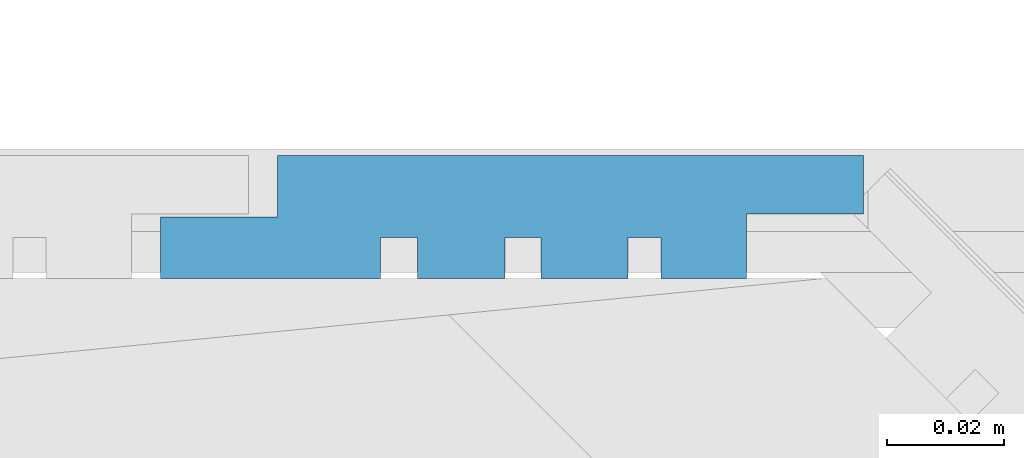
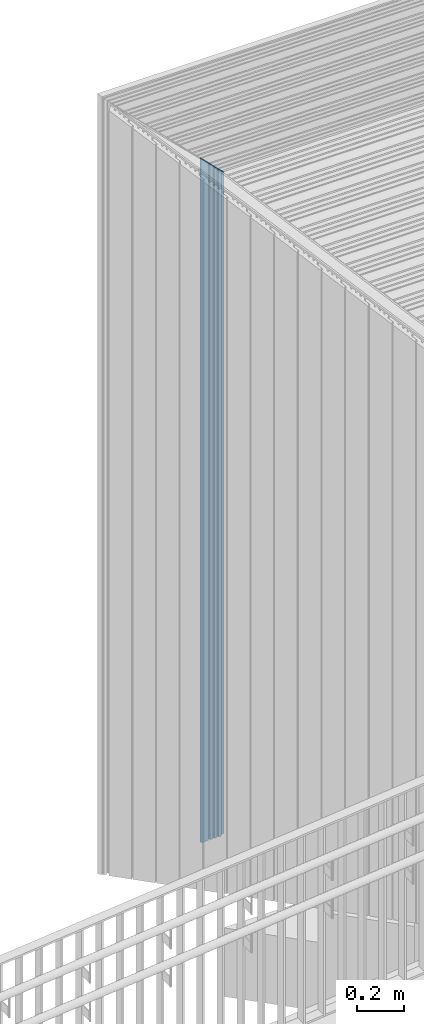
# One storey, part 136 of 418: 1 building element part, 1 element without a shape of its own.
"""IFC2X3 building model written with IfcOpenShell, lengths in millimetres."""

import ifcopenshell
import ifcopenshell.guid

model = None  # the IFC model being written
_history = None  # IfcOwnerHistory: only IFC2X3 demands one
_inside = {}  # id of a spatial element -> (the spatial element, [elements in it])
_under = {}  # id of a project, library or spatial element -> (it, [spatial elements below it])
_declared = {}  # id of a project -> (the project, [libraries it declares])
_typed = {}  # id of a type object -> (the type object, [elements of that type])
_made_of = {}  # id of a material, layer set ... -> (it, [elements and type objects made of it])


def new_model(schema):
    """Start an empty IFC model of exactly this schema.

    Asked for "IFC4X3", IfcOpenShell would pick the latest addendum, in which some entities
    have other attributes; the version numbers below select the first issue.
    IFC2X3 requires an IfcOwnerHistory on every rooted entity: one is made here for all.
    """
    global model, _history
    if schema == "IFC4X3":
        model = ifcopenshell.file(schema_version=(4, 3, 0, 0))
    else:
        model = ifcopenshell.file(schema=schema)
    _inside.clear()
    _under.clear()
    _declared.clear()
    _typed.clear()
    _made_of.clear()
    _history = None
    if model.schema == "IFC2X3":
        org = make("IfcOrganization", Name="unknown")
        user = make(
            "IfcPersonAndOrganization",
            ThePerson=make("IfcPerson", FamilyName="unknown"),
            TheOrganization=org,
        )
        app = make(
            "IfcApplication",
            ApplicationDeveloper=org,
            Version="unknown",
            ApplicationFullName="unknown",
            ApplicationIdentifier="unknown",
        )
        _history = make(
            "IfcOwnerHistory",
            OwningUser=user,
            OwningApplication=app,
            ChangeAction="ADDED",
            CreationDate=0,
        )
    return model


def make(cls, **values):
    """One entity of the class cls with the attributes given. An attribute that is None is left unset."""
    return model.create_entity(
        cls, **{name: value for name, value in values.items() if value is not None}
    )


def entity(cls, *values):
    """Any entity or typed value of the class cls, its attributes in the order of the schema. None: left unset."""
    e = model.create_entity(cls)
    for i, value in enumerate(values):
        if value is not None:
            e[i] = value
    return e


def rooted(cls, **values):
    """An entity with a GlobalId (a new one), such as an element, a storey or a relation."""
    return make(cls, GlobalId=ifcopenshell.guid.new(), OwnerHistory=_history, **values)


def si_unit(unit_type, name, prefix=None):
    """IfcSIUnit, for example si_unit("LENGTHUNIT", "METRE", prefix="MILLI")."""
    return make("IfcSIUnit", UnitType=unit_type, Prefix=prefix, Name=name)


def converted_unit(unit_type, name, factor, base, dimensions=None, offset=None):
    """IfcConversionBasedUnit, such as the inch: factor (a typed value) times the base unit."""
    return make(
        "IfcConversionBasedUnit"
        if offset is None
        else "IfcConversionBasedUnitWithOffset",
        ConversionOffset=offset,
        Dimensions=None
        if dimensions is None
        else entity("IfcDimensionalExponents", *dimensions),
        UnitType=unit_type,
        Name=name,
        ConversionFactor=make(
            "IfcMeasureWithUnit", ValueComponent=factor, UnitComponent=base
        ),
    )


def derived_unit(unit_type, elements):
    """IfcDerivedUnit: a product of units, each with its exponent."""
    return make(
        "IfcDerivedUnit",
        Elements=[
            make("IfcDerivedUnitElement", Unit=unit, Exponent=power)
            for unit, power in elements
        ],
        UnitType=unit_type,
    )


def money_unit(currency):
    """IfcMonetaryUnit."""
    return make("IfcMonetaryUnit", Currency=currency)


def assignment(units):
    """IfcUnitAssignment: the units of a project."""
    return None if units is None else make("IfcUnitAssignment", Units=units)


def point(xyz):
    """IfcCartesianPoint."""
    return None if xyz is None else make("IfcCartesianPoint", Coordinates=xyz)


def direction(xyz):
    """IfcDirection."""
    return None if xyz is None else make("IfcDirection", DirectionRatios=xyz)


def frame(location, z_axis=None, x_axis=None):
    """IfcAxis2Placement3D, a coordinate frame: its origin and axes. An axis left out is left unset."""
    return make(
        "IfcAxis2Placement3D",
        Location=point(location),
        Axis=direction(z_axis),
        RefDirection=direction(x_axis),
    )


def origin_with_axes():
    """The frame at (0, 0, 0) with the z axis (0, 0, 1) and the x axis (1, 0, 0) written out."""
    return frame((0.0, 0.0, 0.0), z_axis=(0.0, 0.0, 1.0), x_axis=(1.0, 0.0, 0.0))


def place(relative_to, where):
    """IfcLocalPlacement: puts the frame where relative to a parent placement (None: the world)."""
    return make(
        "IfcLocalPlacement", PlacementRelTo=relative_to, RelativePlacement=where
    )


def context(
    kind, dimensions, precision=None, world=None, true_north=None, identifier=None
):
    """IfcGeometricRepresentationContext, for example the 3D "Model" context."""
    return make(
        "IfcGeometricRepresentationContext",
        ContextIdentifier=identifier,
        ContextType=kind,
        CoordinateSpaceDimension=dimensions,
        Precision=precision,
        WorldCoordinateSystem=world,
        TrueNorth=true_north,
    )


def subcontext(parent, identifier, kind, view, scale=None):
    """IfcGeometricRepresentationSubContext, for example "Body" below "Model"."""
    return make(
        "IfcGeometricRepresentationSubContext",
        ContextIdentifier=identifier,
        ContextType=kind,
        ParentContext=parent,
        TargetScale=scale,
        TargetView=view,
    )


def project(units=None, contexts=None):
    """IfcProject with its units and contexts."""
    return rooted(
        "IfcProject",
        Name="project",
        RepresentationContexts=contexts,
        UnitsInContext=assignment(units),
    )


def spatial(cls, under=None, at=None, **own):
    """A site, building, storey or space (cls), placed at a placement, below another one or the project."""
    s = rooted(cls, ObjectPlacement=at, **own)
    if under is not None:
        _under.setdefault(under.id(), (under, []))[1].append(s)
    return s


def polyline(points):
    """IfcPolyline through the points."""
    return make("IfcPolyline", Points=[point(p) for p in points])


def outline(outer, holes=None, kind="AREA"):
    """IfcArbitraryClosedProfileDef: a profile drawn as a closed curve; with holes, ...WithVoids."""
    if holes is None:
        return make("IfcArbitraryClosedProfileDef", ProfileType=kind, OuterCurve=outer)
    return make(
        "IfcArbitraryProfileDefWithVoids",
        ProfileType=kind,
        OuterCurve=outer,
        InnerCurves=holes,
    )


def extrude(swept, where, along, depth):
    """IfcExtrudedAreaSolid: the profile swept, set in the frame where, extruded along a direction by depth."""
    return make(
        "IfcExtrudedAreaSolid",
        SweptArea=swept,
        Position=where,
        ExtrudedDirection=direction(along),
        Depth=depth,
    )


def boolean(op, a, b):
    """IfcBooleanResult of two solids."""
    return make("IfcBooleanResult", Operator=op, FirstOperand=a, SecondOperand=b)


def faces_of(points, faces, orient=None, outer=None):
    """IfcFace entities. A face is a list of loops; a loop is a list of indices into points, from 0.

    orient and outer hold one flag for each loop. By default every Orientation is true, the
    first loop of a face is its IfcFaceOuterBound and the others are IfcFaceBound.
    """
    made = []
    for i, loops in enumerate(faces):
        bounds = []
        for j, loop in enumerate(loops):
            is_outer = j == 0 if outer is None else outer[i][j]
            bounds.append(
                make(
                    "IfcFaceOuterBound" if is_outer else "IfcFaceBound",
                    Bound=make("IfcPolyLoop", Polygon=[points[k] for k in loop]),
                    Orientation=True if orient is None else orient[i][j],
                )
            )
        made.append(make("IfcFace", Bounds=bounds))
    return made


def faceted_brep(points, faces, orient=None, outer=None, voids=None):
    """IfcFacetedBrep: a solid bounded by flat faces; with voids (closed shells), ...WithVoids."""
    shared = [point(p) for p in points]
    hull = make("IfcClosedShell", CfsFaces=faces_of(shared, faces, orient, outer))
    if voids is None:
        return make("IfcFacetedBrep", Outer=hull)
    return make(
        "IfcFacetedBrepWithVoids",
        Outer=hull,
        Voids=[
            make(cls, CfsFaces=faces_of(shared, fs, o, b)) for cls, fs, o, b in voids
        ],
    )


def shape(context_of_items, identifier, shape_type, items):
    """IfcShapeRepresentation: the items that make up one representation, for example the "Body"."""
    return make(
        "IfcShapeRepresentation",
        ContextOfItems=context_of_items,
        RepresentationIdentifier=identifier,
        RepresentationType=shape_type,
        Items=items,
    )


def material(Name=None, Category=None):
    """IfcMaterial."""
    return make("IfcMaterial", Name=Name, Category=Category)


def made_of(thing, what):
    """Note that an element or type object is made of a material, layer set ...; save() writes the relation."""
    if what is not None:
        _made_of.setdefault(what.id(), (what, []))[1].append(thing)
    return thing


def type_object(cls, material=None, **own):
    """A type object (cls), such as IfcWallType, which elements share."""
    return made_of(rooted(cls, **own), material)


def element(
    cls,
    number,
    at=None,
    inside=None,
    cuts=None,
    type_object=None,
    material=None,
    context=None,
    identifier="Body",
    shape_type=None,
    held_by="IfcProductDefinitionShape",
    body=None,
    shapes=None,
    **own,
):
    """One element of the class cls, such as IfcWall. Its Tag is "e" and its number.

    at: its placement. inside: the storey or other place that contains it. cuts: it is an
    opening in that element (IfcRelVoidsElement). A single representation is given by context,
    identifier, shape_type and body (its items); several are given by shapes. held_by: the class
    of the entity that holds the representations. save() writes the other relations.
    """
    e = rooted(cls, Tag="e%d" % number, ObjectPlacement=at, **own)
    if body is not None:
        shapes = [shape(context, identifier, shape_type, body)]
    if shapes is not None:
        e.Representation = make(held_by, Representations=shapes)
    if inside is not None:
        _inside.setdefault(inside.id(), (inside, []))[1].append(e)
    if cuts is not None:
        rooted(
            "IfcRelVoidsElement", RelatingBuildingElement=cuts, RelatedOpeningElement=e
        )
    if type_object is not None:
        _typed.setdefault(type_object.id(), (type_object, []))[1].append(e)
    return made_of(e, material)


def aggregate(whole, parts):
    """IfcRelAggregates: a whole, such as a stair, and the parts it consists of."""
    return rooted("IfcRelAggregates", RelatingObject=whole, RelatedObjects=parts)


def save(model, path):
    """Write the relations noted so far, then the file.

    IfcRelAggregates (storeys below a building ...), IfcRelContainedInSpatialStructure (elements
    in a storey), IfcRelDefinesByType, IfcRelAssociatesMaterial and IfcRelDeclares: one each for
    every whole, place, type object, material and project.
    """
    for whole, parts in _under.values():
        aggregate(whole, parts)
    for where, things in _inside.values():
        rooted(
            "IfcRelContainedInSpatialStructure",
            RelatedElements=things,
            RelatingStructure=where,
        )
    for kind, things in _typed.values():
        rooted("IfcRelDefinesByType", RelatedObjects=things, RelatingType=kind)
    for what, things in _made_of.values():
        rooted("IfcRelAssociatesMaterial", RelatedObjects=things, RelatingMaterial=what)
    for by, libraries in _declared.values():
        rooted("IfcRelDeclares", RelatingContext=by, RelatedDefinitions=libraries)
    model.write(path)


model = new_model("IFC2X3")

# Units and contexts
model_context = context("Model", 3, precision=0.01, world=origin_with_axes(), true_north=direction((0.0, 1.0)))
body_context = subcontext(model_context, "Body", "Model", "MODEL_VIEW")
ifc_project = project(units=[si_unit("LENGTHUNIT", "METRE", prefix="MILLI"), si_unit("AREAUNIT", "SQUARE_METRE"), si_unit("VOLUMEUNIT", "CUBIC_METRE"), converted_unit("PLANEANGLEUNIT", "DEGREE", entity("IfcPlaneAngleMeasure", 0.0174532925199), si_unit("PLANEANGLEUNIT", "RADIAN"), dimensions=[0, 0, 0, 0, 0, 0, 0]), si_unit("SOLIDANGLEUNIT", "STERADIAN"), money_unit("EUR"), converted_unit("TIMEUNIT", "Year", entity("IfcTimeMeasure", 31556926.0), si_unit("TIMEUNIT", "SECOND"), dimensions=[0, 0, 1, 0, 0, 0, 0]), si_unit("MASSUNIT", "GRAM", prefix="KILO"), si_unit("THERMODYNAMICTEMPERATUREUNIT", "DEGREE_CELSIUS"), si_unit("LUMINOUSINTENSITYUNIT", "LUMEN"), si_unit("ENERGYUNIT", "JOULE", prefix="MEGA"), derived_unit("THERMALCONDUCTANCEUNIT", [(si_unit("POWERUNIT", "WATT"), 1), (si_unit("LENGTHUNIT", "METRE"), -1), (si_unit("THERMODYNAMICTEMPERATUREUNIT", "KELVIN"), -1)]), derived_unit("SPECIFICHEATCAPACITYUNIT", [(si_unit("ENERGYUNIT", "JOULE"), 1), (si_unit("MASSUNIT", "GRAM", prefix="KILO"), -1), (si_unit("THERMODYNAMICTEMPERATUREUNIT", "KELVIN"), -1)]), derived_unit("MASSDENSITYUNIT", [(si_unit("MASSUNIT", "GRAM", prefix="KILO"), 1), (si_unit("VOLUMEUNIT", "CUBIC_METRE"), -1)])], contexts=[model_context])

# Site, building, storey
site_placement = place(None, origin_with_axes())
site = spatial("IfcSite", under=ifc_project, at=site_placement, Name="Paldiski mnt 245/1, Tallinn, Harjumaa", CompositionType="COMPLEX")
building_placement = place(site_placement, origin_with_axes())
building = spatial("IfcBuilding", under=site, at=building_placement, Name="RKAS Hoone üldnimetus (kasutust iseloomustav) -> IFC Project Manager -> SOLIBRI", CompositionType="ELEMENT")
storey_placement = place(building_placement, origin_with_axes())
storey = spatial("IfcBuildingStorey", under=building, at=storey_placement, Name="Esimene korrus", CompositionType="ELEMENT", Elevation=0.0)

# Proxy, building element part
building_element_proxy_type = type_object("IfcBuildingElementProxyType", Name="Laudis esiprofiil_01 21 x 622", PredefinedType="NOTDEFINED")
proxy_placement = place(storey_placement, frame((-54498.5561962, 39788.252735, 0.0), z_axis=(0.0, 0.0, 1.0), x_axis=(0.0, 1.0, 0.0)))
proxy = element("IfcBuildingElementProxy", 1, at=proxy_placement, inside=storey, type_object=building_element_proxy_type, Name="Varikatus")
ifc_material = material(Name="Laudis 5072 Honka 45 horisontaalne raastas")
building_element_part_placement = place(proxy_placement, origin_with_axes())
building_element_part = element("IfcBuildingElementPart", 2, at=building_element_part_placement, material=ifc_material, Name="Laudis 5072 Honka 45 horisontaalne raastas", context=body_context, shape_type="CSG", body=[
    boolean("DIFFERENCE", boolean("DIFFERENCE", boolean("DIFFERENCE", boolean("DIFFERENCE", boolean("DIFFERENCE", boolean("DIFFERENCE", extrude(outline(polyline([(3.20348192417e-08, -520.971430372), (-10.5000010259, -520.971430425), (-10.5000005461, -500.971429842), (-20.9999998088, -500.971430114), (-21.0000010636, -538.497524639), (-14.0000005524, -538.497525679), (-14.0000003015, -544.860022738), (-20.99999981, -544.860022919), (-20.9999998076, -559.79914009), (-14.0000002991, -559.799139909), (-14.0000007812, -565.926080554), (-21.0000002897, -565.926080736), (-21.0000013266, -580.754573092), (-14.0000008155, -580.754574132), (-14.0000015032, -586.395242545), (-21.0000010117, -586.395242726), (-21.0000007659, -600.971429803), (-10.000001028, -600.971430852), (-10.0000002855, -620.971430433), (-7.63172636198e-07, -620.971430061), (3.20348192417e-08, -520.971430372)])), origin_with_axes(), (0.0, 0.0, 1.0), 4086.15997799), faceted_brep([(-10.0000002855, -515.971430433, 3569.02857075), (-7.63172636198e-07, -515.971430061, 3569.02857112), (-7.63172636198e-07, -515.971430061, 4086.15997799), (-10.0000002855, -515.971430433, 4086.15997799), (3.20312665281e-08, -415.971430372, 3669.02857081), (-10.000001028, -495.971430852, 3589.02857033), (-21.0000007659, -495.971429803, 3589.02857138), (-21.0000010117, -481.395242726, 3603.60475846), (-14.0000015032, -481.395242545, 3603.60475864), (-14.0000008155, -475.754574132, 3609.24542705), (-21.0000013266, -475.754573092, 3609.24542809), (-21.0000002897, -460.926080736, 3624.07392045), (-14.0000007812, -460.926080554, 3624.07392063), (-14.0000002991, -454.799139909, 3630.20086128), (-20.9999998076, -454.79914009, 3630.20086109), (-20.99999981, -439.860022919, 3645.13997827), (-14.0000003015, -439.860022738, 3645.13997845), (-14.0000005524, -433.497525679, 3651.50247551), (-21.0000010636, -433.497524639, 3651.50247655), (-20.9999998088, -395.971430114, 3689.02857107), (-10.5000005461, -395.971429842, 3689.02857134), (-10.5000010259, -415.971430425, 3669.02857076), (3.20312665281e-08, -415.971430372, 4086.15997799), (-10.5000010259, -415.971430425, 4086.15997799), (-10.5000005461, -395.971429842, 4086.15997799), (-20.9999998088, -395.971430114, 4086.15997799), (-21.0000010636, -433.497524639, 4086.15997799), (-14.0000005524, -433.497525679, 4086.15997799), (-14.0000003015, -439.860022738, 4086.15997799), (-20.99999981, -439.860022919, 4086.15997799), (-20.9999998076, -454.79914009, 4086.15997799), (-14.0000002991, -454.799139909, 4086.15997799), (-14.0000007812, -460.926080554, 4086.15997799), (-21.0000002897, -460.926080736, 4086.15997799), (-21.0000013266, -475.754573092, 4086.15997799), (-14.0000008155, -475.754574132, 4086.15997799), (-14.0000015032, -481.395242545, 4086.15997799), (-21.0000010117, -481.395242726, 4086.15997799), (-21.0000007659, -495.971429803, 4086.15997799), (-10.000001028, -495.971430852, 4086.15997799)], [[[0, 1, 2, 3]], [[4, 1, 0, 5, 6, 7, 8, 9, 10, 11, 12, 13, 14, 15, 16, 17, 18, 19, 20, 21]], [[1, 4, 22, 2]], [[2, 22, 23, 24, 25, 26, 27, 28, 29, 30, 31, 32, 33, 34, 35, 36, 37, 38, 39, 3]], [[5, 0, 3, 39]], [[6, 5, 39, 38]], [[7, 6, 38, 37]], [[8, 7, 37, 36]], [[9, 8, 36, 35]], [[10, 9, 35, 34]], [[11, 10, 34, 33]], [[12, 11, 33, 32]], [[13, 12, 32, 31]], [[14, 13, 31, 30]], [[15, 14, 30, 29]], [[16, 15, 29, 28]], [[17, 16, 28, 27]], [[18, 17, 27, 26]], [[19, 18, 26, 25]], [[20, 19, 25, 24]], [[21, 20, 24, 23]], [[4, 21, 23, 22]]])), faceted_brep([(-10.0000002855, -620.971430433, 3464.02857075), (-7.63172636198e-07, -620.971430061, 3464.02857112), (-7.63172636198e-07, -620.971430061, 4086.15997799), (-10.0000002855, -620.971430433, 4086.15997799), (3.20312665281e-08, -520.971430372, 3564.02857081), (-10.000001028, -600.971430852, 3484.02857033), (-21.0000007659, -600.971429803, 3484.02857138), (-21.0000010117, -586.395242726, 3498.60475846), (-14.0000015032, -586.395242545, 3498.60475864), (-14.0000008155, -580.754574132, 3504.24542705), (-21.0000013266, -580.754573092, 3504.24542809), (-21.0000002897, -565.926080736, 3519.07392045), (-14.0000007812, -565.926080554, 3519.07392063), (-14.0000002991, -559.799139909, 3525.20086128), (-20.9999998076, -559.79914009, 3525.20086109), (-20.99999981, -544.860022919, 3540.13997827), (-14.0000003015, -544.860022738, 3540.13997845), (-14.0000005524, -538.497525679, 3546.50247551), (-21.0000010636, -538.497524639, 3546.50247655), (-20.9999998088, -500.971430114, 3584.02857107), (-10.5000005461, -500.971429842, 3584.02857134), (-10.5000010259, -520.971430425, 3564.02857076), (3.20312665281e-08, -520.971430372, 4086.15997799), (-10.5000010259, -520.971430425, 4086.15997799), (-10.5000005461, -500.971429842, 4086.15997799), (-20.9999998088, -500.971430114, 4086.15997799), (-21.0000010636, -538.497524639, 4086.15997799), (-14.0000005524, -538.497525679, 4086.15997799), (-14.0000003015, -544.860022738, 4086.15997799), (-20.99999981, -544.860022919, 4086.15997799), (-20.9999998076, -559.79914009, 4086.15997799), (-14.0000002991, -559.799139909, 4086.15997799), (-14.0000007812, -565.926080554, 4086.15997799), (-21.0000002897, -565.926080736, 4086.15997799), (-21.0000013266, -580.754573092, 4086.15997799), (-14.0000008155, -580.754574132, 4086.15997799), (-14.0000015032, -586.395242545, 4086.15997799), (-21.0000010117, -586.395242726, 4086.15997799), (-21.0000007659, -600.971429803, 4086.15997799), (-10.000001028, -600.971430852, 4086.15997799)], [[[0, 1, 2, 3]], [[4, 1, 0, 5, 6, 7, 8, 9, 10, 11, 12, 13, 14, 15, 16, 17, 18, 19, 20, 21]], [[1, 4, 22, 2]], [[2, 22, 23, 24, 25, 26, 27, 28, 29, 30, 31, 32, 33, 34, 35, 36, 37, 38, 39, 3]], [[5, 0, 3, 39]], [[6, 5, 39, 38]], [[7, 6, 38, 37]], [[8, 7, 37, 36]], [[9, 8, 36, 35]], [[10, 9, 35, 34]], [[11, 10, 34, 33]], [[12, 11, 33, 32]], [[13, 12, 32, 31]], [[14, 13, 31, 30]], [[15, 14, 30, 29]], [[16, 15, 29, 28]], [[17, 16, 28, 27]], [[18, 17, 27, 26]], [[19, 18, 26, 25]], [[20, 19, 25, 24]], [[21, 20, 24, 23]], [[4, 21, 23, 22]]])), faceted_brep([(-10.0000002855, -305.971430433, 3779.02857075), (-7.63179741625e-07, -305.971430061, 3779.02857112), (-7.63179741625e-07, -305.971430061, 4086.15997799), (-10.0000002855, -305.971430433, 4086.15997799), (3.20312665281e-08, -205.971430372, 3879.02857081), (-10.000001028, -285.971430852, 3799.02857033), (-21.0000007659, -285.971429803, 3799.02857138), (-21.0000010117, -271.395242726, 3813.60475846), (-14.0000015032, -271.395242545, 3813.60475864), (-14.0000008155, -265.754574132, 3819.24542705), (-21.0000013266, -265.754573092, 3819.24542809), (-21.0000002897, -250.926080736, 3834.07392045), (-14.0000007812, -250.926080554, 3834.07392063), (-14.0000002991, -244.799139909, 3840.20086128), (-20.9999998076, -244.79914009, 3840.20086109), (-20.99999981, -229.860022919, 3855.13997827), (-14.0000003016, -229.860022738, 3855.13997845), (-14.0000005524, -223.497525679, 3861.50247551), (-21.0000010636, -223.497524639, 3861.50247655), (-20.9999998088, -185.971430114, 3899.02857107), (-10.5000005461, -185.971429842, 3899.02857134), (-10.5000010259, -205.971430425, 3879.02857076), (3.20312665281e-08, -205.971430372, 4086.15997799), (-10.5000010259, -205.971430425, 4086.15997799), (-10.5000005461, -185.971429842, 4086.15997799), (-20.9999998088, -185.971430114, 4086.15997799), (-21.0000010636, -223.497524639, 4086.15997799), (-14.0000005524, -223.497525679, 4086.15997799), (-14.0000003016, -229.860022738, 4086.15997799), (-20.99999981, -229.860022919, 4086.15997799), (-20.9999998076, -244.79914009, 4086.15997799), (-14.0000002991, -244.799139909, 4086.15997799), (-14.0000007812, -250.926080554, 4086.15997799), (-21.0000002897, -250.926080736, 4086.15997799), (-21.0000013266, -265.754573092, 4086.15997799), (-14.0000008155, -265.754574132, 4086.15997799), (-14.0000015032, -271.395242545, 4086.15997799), (-21.0000010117, -271.395242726, 4086.15997799), (-21.0000007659, -285.971429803, 4086.15997799), (-10.000001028, -285.971430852, 4086.15997799)], [[[0, 1, 2, 3]], [[4, 1, 0, 5, 6, 7, 8, 9, 10, 11, 12, 13, 14, 15, 16, 17, 18, 19, 20, 21]], [[1, 4, 22, 2]], [[2, 22, 23, 24, 25, 26, 27, 28, 29, 30, 31, 32, 33, 34, 35, 36, 37, 38, 39, 3]], [[5, 0, 3, 39]], [[6, 5, 39, 38]], [[7, 6, 38, 37]], [[8, 7, 37, 36]], [[9, 8, 36, 35]], [[10, 9, 35, 34]], [[11, 10, 34, 33]], [[12, 11, 33, 32]], [[13, 12, 32, 31]], [[14, 13, 31, 30]], [[15, 14, 30, 29]], [[16, 15, 29, 28]], [[17, 16, 28, 27]], [[18, 17, 27, 26]], [[19, 18, 26, 25]], [[20, 19, 25, 24]], [[21, 20, 24, 23]], [[4, 21, 23, 22]]])), faceted_brep([(-10.0000002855, -410.971430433, 3674.02857075), (-7.63172636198e-07, -410.971430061, 3674.02857112), (-7.63172636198e-07, -410.971430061, 4086.15997799), (-10.0000002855, -410.971430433, 4086.15997799), (3.20312665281e-08, -310.971430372, 3774.02857081), (-10.000001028, -390.971430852, 3694.02857033), (-21.0000007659, -390.971429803, 3694.02857138), (-21.0000010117, -376.395242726, 3708.60475846), (-14.0000015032, -376.395242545, 3708.60475864), (-14.0000008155, -370.754574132, 3714.24542705), (-21.0000013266, -370.754573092, 3714.24542809), (-21.0000002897, -355.926080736, 3729.07392045), (-14.0000007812, -355.926080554, 3729.07392063), (-14.0000002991, -349.799139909, 3735.20086128), (-20.9999998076, -349.79914009, 3735.20086109), (-20.99999981, -334.860022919, 3750.13997827), (-14.0000003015, -334.860022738, 3750.13997845), (-14.0000005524, -328.497525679, 3756.50247551), (-21.0000010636, -328.497524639, 3756.50247655), (-20.9999998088, -290.971430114, 3794.02857107), (-10.5000005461, -290.971429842, 3794.02857134), (-10.5000010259, -310.971430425, 3774.02857076), (3.20312665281e-08, -310.971430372, 4086.15997799), (-10.5000010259, -310.971430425, 4086.15997799), (-10.5000005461, -290.971429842, 4086.15997799), (-20.9999998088, -290.971430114, 4086.15997799), (-21.0000010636, -328.497524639, 4086.15997799), (-14.0000005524, -328.497525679, 4086.15997799), (-14.0000003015, -334.860022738, 4086.15997799), (-20.99999981, -334.860022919, 4086.15997799), (-20.9999998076, -349.79914009, 4086.15997799), (-14.0000002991, -349.799139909, 4086.15997799), (-14.0000007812, -355.926080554, 4086.15997799), (-21.0000002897, -355.926080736, 4086.15997799), (-21.0000013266, -370.754573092, 4086.15997799), (-14.0000008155, -370.754574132, 4086.15997799), (-14.0000015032, -376.395242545, 4086.15997799), (-21.0000010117, -376.395242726, 4086.15997799), (-21.0000007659, -390.971429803, 4086.15997799), (-10.000001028, -390.971430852, 4086.15997799)], [[[0, 1, 2, 3]], [[4, 1, 0, 5, 6, 7, 8, 9, 10, 11, 12, 13, 14, 15, 16, 17, 18, 19, 20, 21]], [[1, 4, 22, 2]], [[2, 22, 23, 24, 25, 26, 27, 28, 29, 30, 31, 32, 33, 34, 35, 36, 37, 38, 39, 3]], [[5, 0, 3, 39]], [[6, 5, 39, 38]], [[7, 6, 38, 37]], [[8, 7, 37, 36]], [[9, 8, 36, 35]], [[10, 9, 35, 34]], [[11, 10, 34, 33]], [[12, 11, 33, 32]], [[13, 12, 32, 31]], [[14, 13, 31, 30]], [[15, 14, 30, 29]], [[16, 15, 29, 28]], [[17, 16, 28, 27]], [[18, 17, 27, 26]], [[19, 18, 26, 25]], [[20, 19, 25, 24]], [[21, 20, 24, 23]], [[4, 21, 23, 22]]])), faceted_brep([(-10.0000000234, -95.9714304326, 3989.02857075), (-1.4387921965e-06, -95.9714304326, 3989.02857075), (-1.4387921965e-06, -95.9714304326, 4086.15997799), (-10.0000000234, -95.9714304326, 4086.15997799), (8.28492829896e-09, 1.13997680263, 4086.13997799), (-10.0000014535, -75.9714304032, 4009.02857078), (-21.0000013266, -75.9714304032, 4009.02857078), (-21.0000013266, -61.3952431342, 4023.60475805), (-14.0000008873, -61.3952431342, 4023.60475805), (-14.0000008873, -55.7545748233, 4029.24542636), (-21.0000013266, -55.7545733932, 4029.24542779), (-20.9999998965, -40.9260801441, 4044.07392104), (-14.0000008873, -40.9260801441, 4044.07392104), (-14.0000008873, -34.7991393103, 4050.20086187), (-20.9999998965, -34.7991407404, 4050.20086044), (-20.9999998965, -19.8600231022, 4065.13997808), (-14.0000008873, -19.8600231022, 4065.13997808), (-14.0000008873, -12.860024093, 4072.13997709), (8.28492829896e-09, 1.13997680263, 4086.15997799), (-20.9999998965, -40.9260801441, 4086.15997799), (-21.0000013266, -55.7545733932, 4086.15997799), (-14.0000008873, -55.7545748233, 4086.15997799), (-14.0000008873, -61.3952431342, 4086.15997799), (-21.0000013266, -61.3952431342, 4086.15997799), (-21.0000013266, -75.9714304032, 4086.15997799), (-10.0000014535, -75.9714304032, 4086.15997799), (-14.0000008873, -12.860024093, 4086.15997799), (-14.0000008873, -19.8600231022, 4086.15997799), (-20.9999998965, -19.8600231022, 4086.15997799), (-20.9999998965, -34.7991407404, 4086.15997799), (-14.0000008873, -34.7991393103, 4086.15997799), (-14.0000008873, -40.9260801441, 4086.15997799)], [[[0, 1, 2, 3]], [[4, 1, 0, 5, 6, 7, 8, 9, 10, 11, 12, 13, 14, 15, 16, 17]], [[1, 4, 18, 2]], [[19, 20, 21, 22, 23, 24, 25, 3, 2, 18, 26, 27, 28, 29, 30, 31]], [[5, 0, 3, 25]], [[6, 5, 25, 24]], [[7, 6, 24, 23]], [[8, 7, 23, 22]], [[9, 8, 22, 21]], [[10, 9, 21, 20]], [[11, 10, 20, 19]], [[12, 11, 19, 31]], [[13, 12, 31, 30]], [[14, 13, 30, 29]], [[15, 14, 29, 28]], [[16, 15, 28, 27]], [[17, 16, 27, 26]], [[4, 17, 26, 18]]])), faceted_brep([(-10.0000002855, -200.971430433, 3884.02857075), (-7.63179741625e-07, -200.971430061, 3884.02857112), (-7.63179741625e-07, -200.971430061, 4086.15997799), (-10.0000002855, -200.971430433, 4086.15997799), (3.20312665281e-08, -100.971430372, 3984.02857081), (-10.000001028, -180.971430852, 3904.02857033), (-21.0000007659, -180.971429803, 3904.02857138), (-21.0000010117, -166.395242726, 3918.60475846), (-14.0000015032, -166.395242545, 3918.60475864), (-14.0000008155, -160.754574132, 3924.24542705), (-21.0000013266, -160.754573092, 3924.24542809), (-21.0000002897, -145.926080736, 3939.07392045), (-14.0000007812, -145.926080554, 3939.07392063), (-14.0000002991, -139.799139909, 3945.20086128), (-20.9999998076, -139.79914009, 3945.20086109), (-20.99999981, -124.860022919, 3960.13997827), (-14.0000003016, -124.860022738, 3960.13997845), (-14.0000005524, -118.497525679, 3966.50247551), (-21.0000010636, -118.497524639, 3966.50247655), (-20.9999998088, -80.9714301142, 4004.02857107), (-10.5000005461, -80.9714298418, 4004.02857134), (-10.5000010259, -100.971430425, 3984.02857076), (3.20312665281e-08, -100.971430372, 4086.15997799), (-10.5000010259, -100.971430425, 4086.15997799), (-10.5000005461, -80.9714298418, 4086.15997799), (-20.9999998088, -80.9714301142, 4086.15997799), (-21.0000010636, -118.497524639, 4086.15997799), (-14.0000005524, -118.497525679, 4086.15997799), (-14.0000003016, -124.860022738, 4086.15997799), (-20.99999981, -124.860022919, 4086.15997799), (-20.9999998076, -139.79914009, 4086.15997799), (-14.0000002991, -139.799139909, 4086.15997799), (-14.0000007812, -145.926080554, 4086.15997799), (-21.0000002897, -145.926080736, 4086.15997799), (-21.0000013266, -160.754573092, 4086.15997799), (-14.0000008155, -160.754574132, 4086.15997799), (-14.0000015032, -166.395242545, 4086.15997799), (-21.0000010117, -166.395242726, 4086.15997799), (-21.0000007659, -180.971429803, 4086.15997799), (-10.000001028, -180.971430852, 4086.15997799)], [[[0, 1, 2, 3]], [[4, 1, 0, 5, 6, 7, 8, 9, 10, 11, 12, 13, 14, 15, 16, 17, 18, 19, 20, 21]], [[1, 4, 22, 2]], [[2, 22, 23, 24, 25, 26, 27, 28, 29, 30, 31, 32, 33, 34, 35, 36, 37, 38, 39, 3]], [[5, 0, 3, 39]], [[6, 5, 39, 38]], [[7, 6, 38, 37]], [[8, 7, 37, 36]], [[9, 8, 36, 35]], [[10, 9, 35, 34]], [[11, 10, 34, 33]], [[12, 11, 33, 32]], [[13, 12, 32, 31]], [[14, 13, 31, 30]], [[15, 14, 30, 29]], [[16, 15, 29, 28]], [[17, 16, 28, 27]], [[18, 17, 27, 26]], [[19, 18, 26, 25]], [[20, 19, 25, 24]], [[21, 20, 24, 23]], [[4, 21, 23, 22]]])),
])
aggregate(proxy, [building_element_part])

save(model, "model.ifc")
